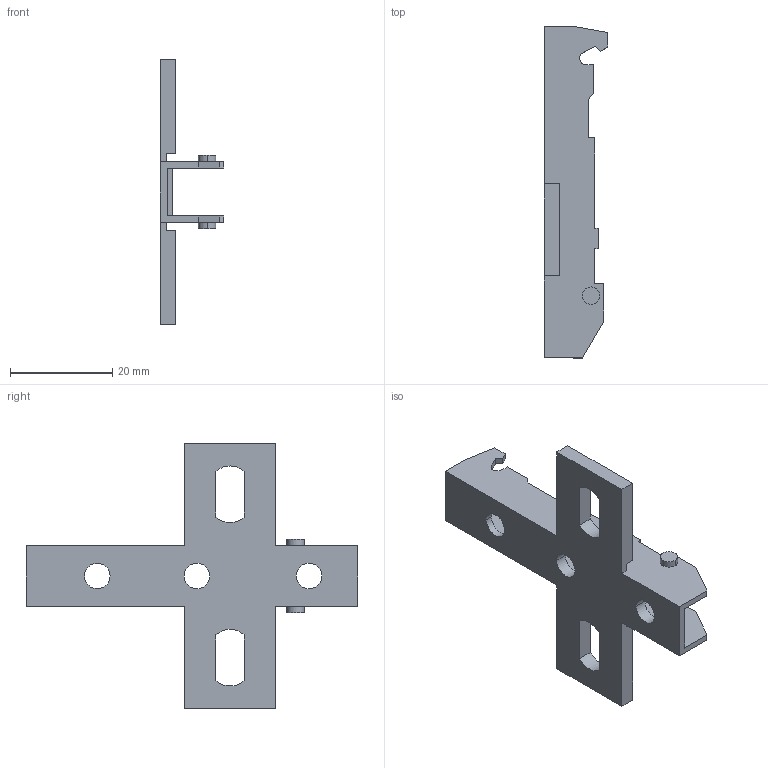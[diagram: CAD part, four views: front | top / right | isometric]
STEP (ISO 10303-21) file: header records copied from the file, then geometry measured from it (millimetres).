
FILE_DESCRIPTION (( 'STEP AP214' ), '1' );
FILE_NAME ('Eco Kreuzmontageplatte LR37_32_Euro_H02.step', '2010-11-18T10:05:57', ( 'grass' ), ( '' ), 'SwSTEP 2.0', 'SolidWorks 2010', '' );
FILE_SCHEMA (( 'AUTOMOTIVE_DESIGN' ));
Length unit declared in the file: millimetre
Products named in the file (1): Eco Kreuzmontageplatte LR37_32_Euro_H02
Bounding box: 12.5 x 65 x 52 mm (x, y, z)
Volume: 4326.4 mm3; surface area: 5755.4 mm2
Topology: 1 solids, 1 shells, 84 faces, 240 edges, 160 vertices
Faces by surface type: plane 66, cylinder 18
Entity records: 2774 total; most frequent: CARTESIAN_POINT 485, ORIENTED_EDGE 480, DIRECTION 446, EDGE_CURVE 240, VECTOR 204, LINE 204, VERTEX_POINT 160, AXIS2_PLACEMENT_3D 121
